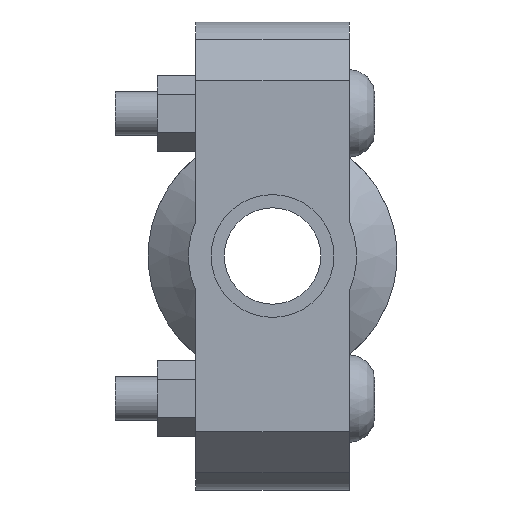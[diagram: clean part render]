
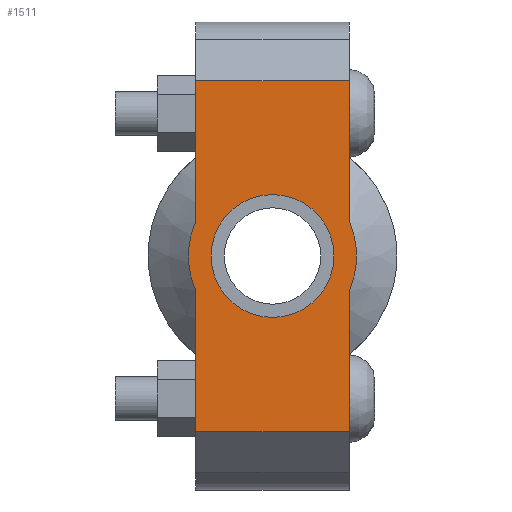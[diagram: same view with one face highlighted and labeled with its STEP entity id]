
A CAD part, left-side view. The second image highlights one B-rep face of the part: STEP entity #1511.
In plain terms, the highlighted planar face has unit normal (-1, 0, 0) as drawn and (0, 0, 1) by its records, which use the part's own axes.
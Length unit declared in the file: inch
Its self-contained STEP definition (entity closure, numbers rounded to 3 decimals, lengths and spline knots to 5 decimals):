
#122=LINE('',#2595,#217);
#137=LINE('',#2654,#232);
#145=LINE('',#2684,#240);
#147=LINE('',#2687,#242);
#148=LINE('',#2692,#243);
#149=LINE('',#2693,#244);
#217=VECTOR('',#2101,0.3937);
#232=VECTOR('',#2136,0.3937);
#240=VECTOR('',#2156,0.3937);
#242=VECTOR('',#2160,0.3937);
#243=VECTOR('',#2165,0.3937);
#244=VECTOR('',#2166,0.3937);
#304=FACE_BOUND('',#463,.T.);
#364=FACE_OUTER_BOUND('',#462,.T.);
#462=EDGE_LOOP('',(#1206,#1207,#1208,#1209,#1210,#1211,#1212,#1213));
#463=EDGE_LOOP('',(#1214));
#568=CIRCLE('',#1774,0.719);
#569=CIRCLE('',#1775,0.719);
#570=CIRCLE('',#1776,0.525);
#677=VERTEX_POINT('',#2592);
#678=VERTEX_POINT('',#2594);
#699=VERTEX_POINT('',#2649);
#700=VERTEX_POINT('',#2653);
#709=VERTEX_POINT('',#2679);
#710=VERTEX_POINT('',#2683);
#711=VERTEX_POINT('',#2689);
#712=VERTEX_POINT('',#2691);
#713=VERTEX_POINT('',#2695);
#847=EDGE_CURVE('',#678,#677,#122,.T.);
#872=EDGE_CURVE('',#700,#699,#137,.T.);
#885=EDGE_CURVE('',#710,#709,#145,.T.);
#887=EDGE_CURVE('',#710,#677,#147,.T.);
#888=EDGE_CURVE('',#709,#711,#568,.T.);
#889=EDGE_CURVE('',#711,#712,#148,.T.);
#890=EDGE_CURVE('',#700,#712,#149,.T.);
#891=EDGE_CURVE('',#699,#678,#569,.T.);
#892=EDGE_CURVE('',#713,#713,#570,.T.);
#1206=ORIENTED_EDGE('',*,*,#887,.F.);
#1207=ORIENTED_EDGE('',*,*,#885,.T.);
#1208=ORIENTED_EDGE('',*,*,#888,.T.);
#1209=ORIENTED_EDGE('',*,*,#889,.T.);
#1210=ORIENTED_EDGE('',*,*,#890,.F.);
#1211=ORIENTED_EDGE('',*,*,#872,.T.);
#1212=ORIENTED_EDGE('',*,*,#891,.T.);
#1213=ORIENTED_EDGE('',*,*,#847,.T.);
#1214=ORIENTED_EDGE('',*,*,#892,.T.);
#1363=PLANE('',#1773);
#1511=ADVANCED_FACE('',(#364,#304),#1363,.T.);
#1773=AXIS2_PLACEMENT_3D('',#2688,#2161,#2162);
#1774=AXIS2_PLACEMENT_3D('',#2690,#2163,#2164);
#1775=AXIS2_PLACEMENT_3D('',#2694,#2167,#2168);
#1776=AXIS2_PLACEMENT_3D('',#2696,#2169,#2170);
#2101=DIRECTION('',(1.,0.,0.));
#2136=DIRECTION('',(1.,0.,0.));
#2156=DIRECTION('',(-1.,0.,0.));
#2160=DIRECTION('',(0.,-1.,0.));
#2161=DIRECTION('center_axis',(0.,0.,1.));
#2162=DIRECTION('ref_axis',(-1.,0.,0.));
#2163=DIRECTION('center_axis',(0.,0.,1.));
#2164=DIRECTION('ref_axis',(1.,0.,0.));
#2165=DIRECTION('',(-1.,0.,0.));
#2166=DIRECTION('',(0.,1.,0.));
#2167=DIRECTION('center_axis',(0.,0.,1.));
#2168=DIRECTION('ref_axis',(1.,0.,0.));
#2169=DIRECTION('center_axis',(0.,0.,-1.));
#2170=DIRECTION('ref_axis',(1.,0.,0.));
#2592=CARTESIAN_POINT('',(1.5,-0.656,0.875));
#2594=CARTESIAN_POINT('',(0.29432,-0.656,0.875));
#2595=CARTESIAN_POINT('',(-2.,-0.656,0.875));
#2649=CARTESIAN_POINT('',(-0.29432,-0.656,0.875));
#2653=CARTESIAN_POINT('',(-1.5,-0.656,0.875));
#2654=CARTESIAN_POINT('',(-2.,-0.656,0.875));
#2679=CARTESIAN_POINT('',(0.29432,0.656,0.875));
#2683=CARTESIAN_POINT('',(1.5,0.656,0.875));
#2684=CARTESIAN_POINT('',(2.,0.656,0.875));
#2687=CARTESIAN_POINT('',(1.5,-0.328,0.875));
#2688=CARTESIAN_POINT('Origin',(0.,0.,
0.875));
#2689=CARTESIAN_POINT('',(-0.29432,0.656,0.875));
#2690=CARTESIAN_POINT('Origin',(0.,0.,0.875));
#2691=CARTESIAN_POINT('',(-1.5,0.656,0.875));
#2692=CARTESIAN_POINT('',(2.,0.656,0.875));
#2693=CARTESIAN_POINT('',(-1.5,0.328,0.875));
#2694=CARTESIAN_POINT('Origin',(0.,0.,0.875));
#2695=CARTESIAN_POINT('',(-0.525,0.,0.875));
#2696=CARTESIAN_POINT('Origin',(0.,0.,0.875));
